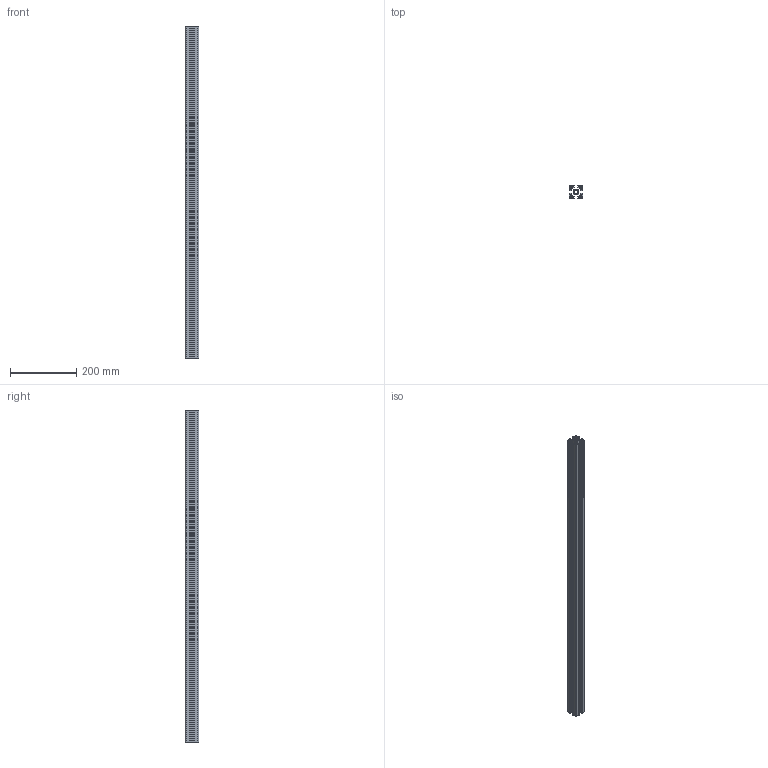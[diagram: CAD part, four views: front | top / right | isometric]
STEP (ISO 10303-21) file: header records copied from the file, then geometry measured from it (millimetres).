
FILE_DESCRIPTION (( 'STEP AP214' ), '1' );
FILE_NAME ('4040S10.STEP', '2018-07-31T08:25:44', ( '' ), ( '' ), 'SwSTEP 2.0', 'SolidWorks 2014', '' );
FILE_SCHEMA (( 'AUTOMOTIVE_DESIGN' ));
Length unit declared in the file: millimetre
Products named in the file (2): 4040S10
Bounding box: 40 x 40 x 1000 mm (x, y, z)
Volume: 527047.2 mm3; surface area: 517412.1 mm2
Topology: 1 solids, 1 shells, 167 faces, 495 edges, 330 vertices
Faces by surface type: plane 114, cylinder 53
Entity records: 5644 total; most frequent: CARTESIAN_POINT 994, ORIENTED_EDGE 990, DIRECTION 939, EDGE_CURVE 495, LINE 389, VECTOR 389, VERTEX_POINT 330, AXIS2_PLACEMENT_3D 275
